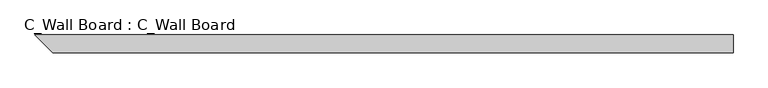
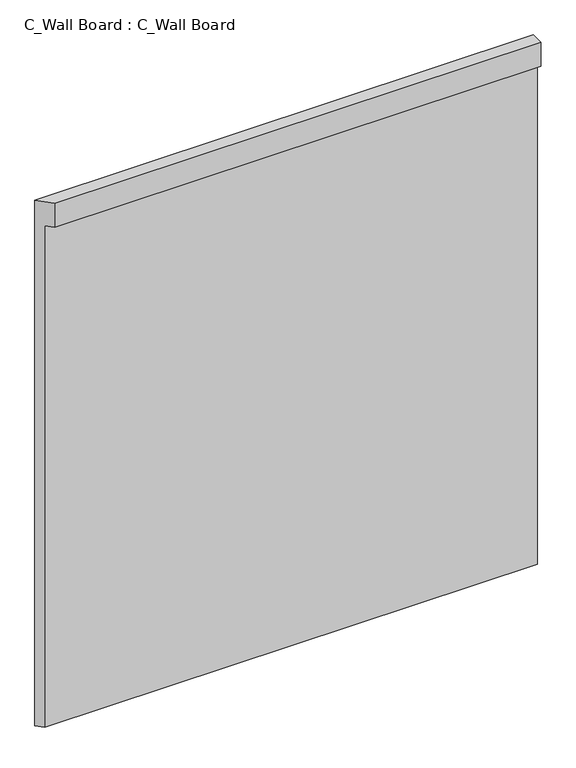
"""IFC4 building model written with IfcOpenShell, lengths in millimetres: proxy geometry, C_Wall Board : C_Wall Board."""

from ifc_helpers import new_model, si_unit, origin, place, context, project, spatial, faceted_brep, source, transform, mapped, element, save


def c_wall_board_c_wall_board_74ff0e35(model_context):
    return source(origin(), model_context, "Body", "Brep", [
        faceted_brep([(1003.3, 0.0, 1117.6), (1003.3, 0.0, 0.0), (0.0, 0.0, 0.0), (0.0, 0.0, 1117.6), (1003.3, -25.4, 1117.6), (25.4, -25.4, 1117.6), (1003.3, -25.4, 1066.8), (1003.3, -12.7, 1066.8), (1003.3, -12.7, 0.0), (12.7, -12.7, 0.0), (12.7, -12.7, 1066.8), (25.4, -25.4, 1066.8)], [[[0, 1, 2, 3]], [[4, 0, 3, 5]], [[1, 0, 4, 6, 7, 8]], [[3, 2, 9, 10, 11, 5]], [[8, 7, 10, 9]], [[1, 8, 9, 2]], [[6, 4, 5, 11]], [[7, 6, 11, 10]]]),
    ])


if __name__ == "__main__":
    model = new_model("IFC4")
    model_context = context("Model", 3, world=origin())
    ifc_project = project(units=[si_unit("LENGTHUNIT", "METRE", prefix="MILLI")], contexts=[model_context])
    site = spatial("IfcSite", under=ifc_project)
    building = spatial("IfcBuilding", under=site)
    placement = place(None, origin())
    c_wall_board_c_wall_board_shape = c_wall_board_c_wall_board_74ff0e35(model_context)
    element("IfcBuildingElementProxy", 1, Name="C_Wall Board : C_Wall Board", ObjectType="C_Wall Board : C_Wall Board", at=placement, inside=building, context=model_context, shape_type="MappedRepresentation", body=[
        mapped(c_wall_board_c_wall_board_shape, transform((0.0, 0.0, 0.0), x_axis=(1.0, 0.0, 0.0), y_axis=(0.0, 1.0, 0.0), z_axis=(0.0, 0.0, 1.0))),
    ])
    save(model, "model.ifc")
